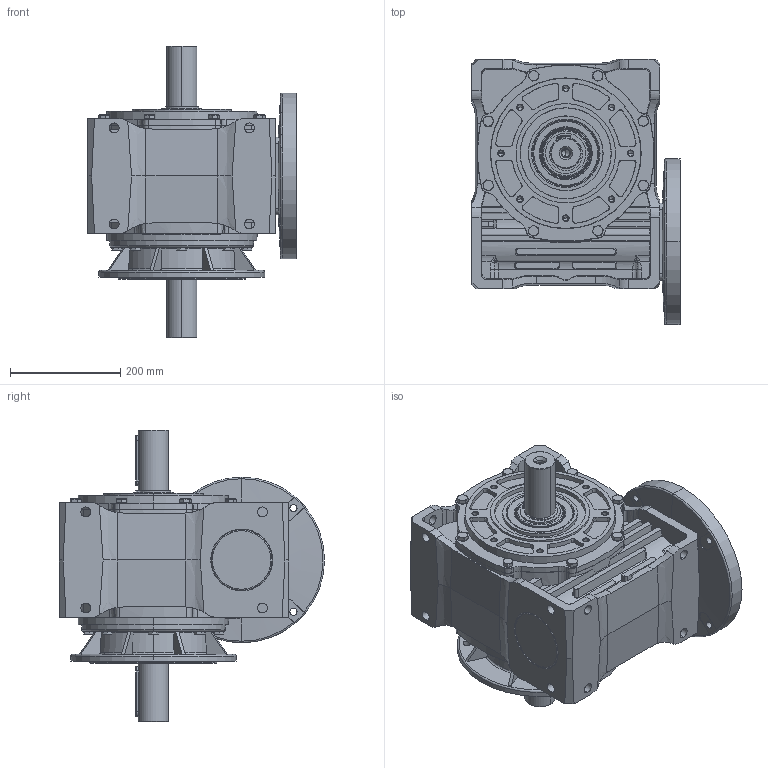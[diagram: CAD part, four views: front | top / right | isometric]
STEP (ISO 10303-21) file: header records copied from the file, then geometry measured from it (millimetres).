
FILE_DESCRIPTION (( 'STEP AP203' ), '1' );
FILE_NAME ('MR-160_300-38-K300_1-WD_1-3D.STEP', '2020-03-20T13:35:55', ( '' ), ( '' ), 'SwSTEP 2.0', 'SolidWorks 2013', '' );
FILE_SCHEMA (( 'CONFIG_CONTROL_DESIGN' ));
Length unit declared in the file: millimetre
Products named in the file (13): Simmering 70x100x10 RST; socket head cap screw_iso_ISO 4762 M16 x 30 --- 30N; Ko³nierz 164_do modeli; hex screw gradeab_iso_ISO 4017 - M10 x 30-N; Wa³ R-160_dwustronny dˆugi; MR-160 - do modeli; Podk³adka na wa³ek R-160; Zaœlepka 110; circlip for shafts normal_din_Circlip DIN 471 - 55 x 2; Œlimak R-160_38; parallel_din_Parallel key A16 x 10 x 90 DIN 6885; Ko³nierz 16xx_300 do nowego korpusu; MR-160_300-38-K300_1-WD_1-3D
Assembly tree (23 placements, depth 2):
  MR-160_300-38-K300_1-WD_1-3D
    MR-160 - do modeli
    Zaœlepka 110
    Œlimak R-160_38
    Ko³nierz 16xx_300 do nowego korpusu
    Simmering 70x100x10 RST
    socket head cap screw_iso_ISO 4762 M16 x 30 --- 30N  x4
    Ko³nierz 164_do modeli
    hex screw gradeab_iso_ISO 4017 - M10 x 30-N  x8
    Wa³ R-160_dwustronny dˆugi
    Podk³adka na wa³ek R-160
    circlip for shafts normal_din_Circlip DIN 471 - 55 x 2
    parallel_din_Parallel key A16 x 10 x 90 DIN 6885  x2
Bounding box: 377 x 480 x 528 mm (x, y, z)
Volume: 16256919.6 mm3; surface area: 2418331.9 mm2
Topology: 35 solids, 35 shells, 3276 faces, 8005 edges, 4880 vertices
Faces by surface type: plane 1014, cylinder 782, cone 739, bspline 483, torus 179, sphere 79
Entity records: 113595 total; most frequent: CARTESIAN_POINT 45003, ORIENTED_EDGE 14614, DIRECTION 13389, EDGE_CURVE 7307, AXIS2_PLACEMENT_3D 5327, VERTEX_POINT 4527, EDGE_LOOP 3234, FACE_OUTER_BOUND 2978
